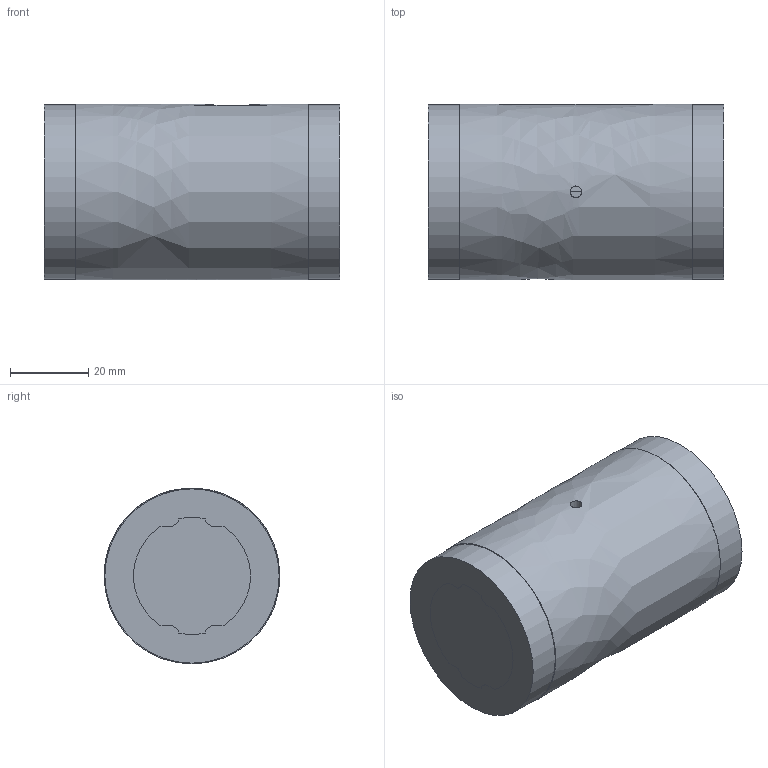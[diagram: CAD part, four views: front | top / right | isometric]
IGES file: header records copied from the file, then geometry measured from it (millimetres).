
Start section: Data from Parasolid IGES Translator 26.0.171, Copyright(c) 2006 Siemens PLM Software. All Rights Reserved.
Global section: file name: LT30X+75.6L(00).igs; native system: By Siemens PLM Incorporated; preprocessor: XPlus GENERIC/IGES 26.0.171; author: Noname; organization: Noname; date: 20240528.070821; units: millimetre
Bounding box: 75.6 x 45 x 45 mm (x, y, z)
Surface area: 28818.7 mm2 (no closed solid volume)
Topology: 0 solids, 0 shells, 66 faces, 362 edges, 356 vertices
Faces by surface type: revolution 41, extrusion 25
